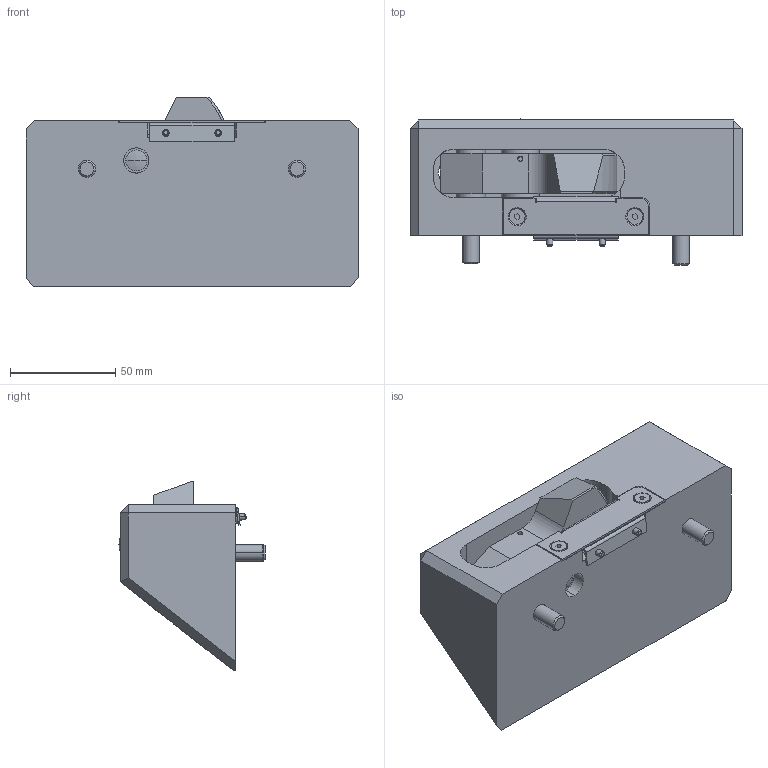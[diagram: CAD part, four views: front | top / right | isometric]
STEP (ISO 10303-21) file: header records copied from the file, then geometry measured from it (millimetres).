
FILE_DESCRIPTION (( 'STEP AP203' ), '1' );
FILE_NAME ('ASUTEC_75010000.STEP', '2017-01-05T06:06:19', ( '' ), ( '' ), 'SwSTEP 2.0', 'SolidWorks 2015', '' );
FILE_SCHEMA (( 'CONFIG_CONTROL_DESIGN' ));
Length unit declared in the file: millimetre
Products named in the file (1): ASUTEC_75010000
Bounding box: 158 x 69.5 x 90 mm (x, y, z)
Volume: 438100.1 mm3; surface area: 77724 mm2
Topology: 3 solids, 5 shells, 307 faces, 740 edges, 470 vertices
Faces by surface type: plane 159, cylinder 98, cone 38, torus 8, sphere 4
Entity records: 9118 total; most frequent: CARTESIAN_POINT 1708, DIRECTION 1574, ORIENTED_EDGE 1468, EDGE_CURVE 734, AXIS2_PLACEMENT_3D 552, LINE 470, VERTEX_POINT 470, VECTOR 470
